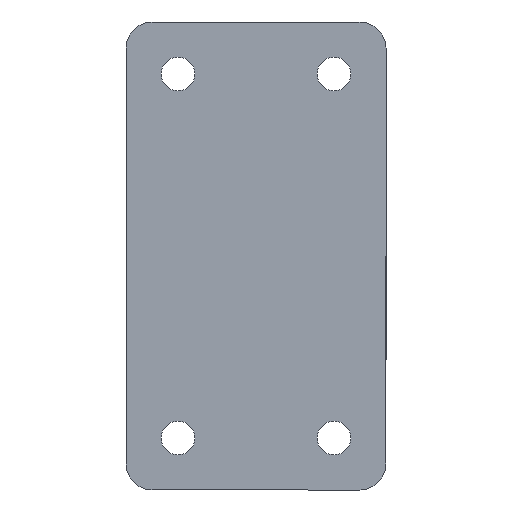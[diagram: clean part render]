
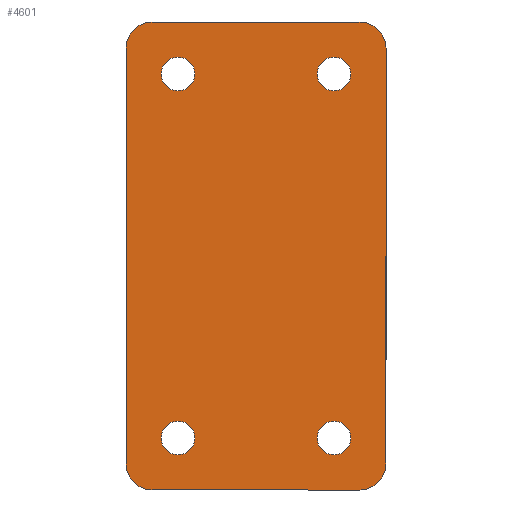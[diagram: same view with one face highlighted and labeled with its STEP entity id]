
A CAD part, front view. The second image highlights one B-rep face of the part: STEP entity #4601.
In plain terms, the highlighted planar face has unit normal (0, -1, 0).
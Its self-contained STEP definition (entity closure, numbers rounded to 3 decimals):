
#17 = CARTESIAN_POINT ( 'NONE',  ( -30., -5., 63.5 ) ) ;
#18 = CARTESIAN_POINT ( 'NONE',  ( 30., -5., 70. ) ) ;
#134 = VERTEX_POINT ( 'NONE', #3408 ) ;
#142 = AXIS2_PLACEMENT_3D ( 'NONE', #834, #4768, #5800 ) ;
#194 = ORIENTED_EDGE ( 'NONE', *, *, #1553, .F. ) ;
#219 = AXIS2_PLACEMENT_3D ( 'NONE', #4308, #5751, #3366 ) ;
#283 = DIRECTION ( 'NONE',  ( 0., 0., 1. ) ) ;
#297 = CIRCLE ( 'NONE', #2203, 10. ) ;
#425 = EDGE_CURVE ( 'NONE', #2573, #935, #2113, .T. ) ;
#459 = ORIENTED_EDGE ( 'NONE', *, *, #4928, .F. ) ;
#484 = DIRECTION ( 'NONE',  ( 0., -1., 0. ) ) ;
#623 = LINE ( 'NONE', #5811, #4686 ) ;
#742 = CARTESIAN_POINT ( 'NONE',  ( 50., -5., -80. ) ) ;
#753 = EDGE_CURVE ( 'NONE', #1617, #2298, #3498, .T. ) ;
#804 = DIRECTION ( 'NONE',  ( 0., 1., 0. ) ) ;
#833 = EDGE_LOOP ( 'NONE', ( #3295, #5921 ) ) ;
#834 = CARTESIAN_POINT ( 'NONE',  ( -30., -5., 70. ) ) ;
#850 = CARTESIAN_POINT ( 'NONE',  ( -40., -5., -90. ) ) ;
#896 = VERTEX_POINT ( 'NONE', #4582 ) ;
#935 = VERTEX_POINT ( 'NONE', #1625 ) ;
#944 = DIRECTION ( 'NONE',  ( 0., 0., -1. ) ) ;
#994 = ORIENTED_EDGE ( 'NONE', *, *, #425, .T. ) ;
#1011 = CIRCLE ( 'NONE', #142, 6.5 ) ;
#1084 = CARTESIAN_POINT ( 'NONE',  ( -30., -5., 70. ) ) ;
#1199 = EDGE_CURVE ( 'NONE', #4530, #6210, #5694, .T. ) ;
#1240 = DIRECTION ( 'NONE',  ( 0., 1., 0. ) ) ;
#1291 = VERTEX_POINT ( 'NONE', #850 ) ;
#1298 = CARTESIAN_POINT ( 'NONE',  ( -30., -5., -70. ) ) ;
#1390 = DIRECTION ( 'NONE',  ( 0., -1., 0. ) ) ;
#1399 = CARTESIAN_POINT ( 'NONE',  ( 40., -5., 90. ) ) ;
#1410 = EDGE_CURVE ( 'NONE', #5709, #3740, #4548, .T. ) ;
#1442 = DIRECTION ( 'NONE',  ( 0., 0., 1. ) ) ;
#1445 = CARTESIAN_POINT ( 'NONE',  ( 30., -5., 63.5 ) ) ;
#1483 = FACE_OUTER_BOUND ( 'NONE', #2545, .T. ) ;
#1511 = DIRECTION ( 'NONE',  ( 0., 0., 1. ) ) ;
#1523 = VERTEX_POINT ( 'NONE', #2396 ) ;
#1553 = EDGE_CURVE ( 'NONE', #896, #6356, #623, .T. ) ;
#1617 = VERTEX_POINT ( 'NONE', #4842 ) ;
#1625 = CARTESIAN_POINT ( 'NONE',  ( -30., -5., -76.5 ) ) ;
#1672 = AXIS2_PLACEMENT_3D ( 'NONE', #4388, #484, #1442 ) ;
#1689 = ORIENTED_EDGE ( 'NONE', *, *, #1199, .T. ) ;
#1746 = EDGE_CURVE ( 'NONE', #134, #6356, #297, .T. ) ;
#1787 = DIRECTION ( 'NONE',  ( -1., 0., 0. ) ) ;
#1790 = CARTESIAN_POINT ( 'NONE',  ( -30., -5., -63.5 ) ) ;
#1831 = CARTESIAN_POINT ( 'NONE',  ( -40., -5., 80. ) ) ;
#1843 = VECTOR ( 'NONE', #6311, 1000. ) ;
#1858 = CARTESIAN_POINT ( 'NONE',  ( -50., -5., 90. ) ) ;
#1905 = ORIENTED_EDGE ( 'NONE', *, *, #4661, .F. ) ;
#1908 = EDGE_CURVE ( 'NONE', #4980, #1523, #5081, .T. ) ;
#1998 = DIRECTION ( 'NONE',  ( 0., 1., 0. ) ) ;
#2113 = CIRCLE ( 'NONE', #4789, 6.5 ) ;
#2164 = FACE_BOUND ( 'NONE', #4539, .T. ) ;
#2196 = CARTESIAN_POINT ( 'NONE',  ( 30., -5., -70. ) ) ;
#2203 = AXIS2_PLACEMENT_3D ( 'NONE', #1831, #4776, #5273 ) ;
#2298 = VERTEX_POINT ( 'NONE', #17 ) ;
#2308 = FACE_BOUND ( 'NONE', #3792, .T. ) ;
#2346 = DIRECTION ( 'NONE',  ( 0., 0., 1. ) ) ;
#2354 = EDGE_CURVE ( 'NONE', #6210, #4530, #3155, .T. ) ;
#2367 = ORIENTED_EDGE ( 'NONE', *, *, #5082, .T. ) ;
#2391 = CARTESIAN_POINT ( 'NONE',  ( -30., -5., -70. ) ) ;
#2396 = CARTESIAN_POINT ( 'NONE',  ( 30., -5., 76.5 ) ) ;
#2414 = DIRECTION ( 'NONE',  ( 0., 0., 1. ) ) ;
#2457 = CARTESIAN_POINT ( 'NONE',  ( 50., -5., -90. ) ) ;
#2545 = EDGE_LOOP ( 'NONE', ( #194, #2367, #4165, #6367, #459, #6136, #1905, #4001 ) ) ;
#2573 = VERTEX_POINT ( 'NONE', #1790 ) ;
#2652 = EDGE_CURVE ( 'NONE', #2298, #1617, #1011, .T. ) ;
#2692 = DIRECTION ( 'NONE',  ( 0., 0., 1. ) ) ;
#2833 = DIRECTION ( 'NONE',  ( 0., 0., 1. ) ) ;
#2845 = CIRCLE ( 'NONE', #1672, 10. ) ;
#2850 = LINE ( 'NONE', #2457, #5940 ) ;
#2893 = DIRECTION ( 'NONE',  ( 0., -1., 0. ) ) ;
#2912 = EDGE_CURVE ( 'NONE', #4493, #3471, #2845, .T. ) ;
#2986 = AXIS2_PLACEMENT_3D ( 'NONE', #3756, #804, #283 ) ;
#3040 = DIRECTION ( 'NONE',  ( 0., 1., 0. ) ) ;
#3106 = CIRCLE ( 'NONE', #4951, 6.5 ) ;
#3153 = EDGE_CURVE ( 'NONE', #1523, #4980, #4477, .T. ) ;
#3155 = CIRCLE ( 'NONE', #5549, 6.5 ) ;
#3164 = FACE_BOUND ( 'NONE', #833, .T. ) ;
#3240 = FACE_BOUND ( 'NONE', #3797, .T. ) ;
#3245 = ORIENTED_EDGE ( 'NONE', *, *, #753, .T. ) ;
#3281 = CARTESIAN_POINT ( 'NONE',  ( 0., -5., 0. ) ) ;
#3295 = ORIENTED_EDGE ( 'NONE', *, *, #3153, .T. ) ;
#3366 = DIRECTION ( 'NONE',  ( 0., 0., 1. ) ) ;
#3408 = CARTESIAN_POINT ( 'NONE',  ( -40., -5., 90. ) ) ;
#3419 = AXIS2_PLACEMENT_3D ( 'NONE', #4881, #1390, #3834 ) ;
#3456 = DIRECTION ( 'NONE',  ( 0., 0., 1. ) ) ;
#3471 = VERTEX_POINT ( 'NONE', #742 ) ;
#3498 = CIRCLE ( 'NONE', #6278, 6.5 ) ;
#3740 = VERTEX_POINT ( 'NONE', #1399 ) ;
#3756 = CARTESIAN_POINT ( 'NONE',  ( 30., -5., 70. ) ) ;
#3792 = EDGE_LOOP ( 'NONE', ( #994, #4213 ) ) ;
#3797 = EDGE_LOOP ( 'NONE', ( #3245, #4816 ) ) ;
#3834 = DIRECTION ( 'NONE',  ( 0., 0., 1. ) ) ;
#3955 = CARTESIAN_POINT ( 'NONE',  ( 30., -5., -63.5 ) ) ;
#4001 = ORIENTED_EDGE ( 'NONE', *, *, #1746, .T. ) ;
#4087 = LINE ( 'NONE', #1858, #1843 ) ;
#4096 = AXIS2_PLACEMENT_3D ( 'NONE', #18, #1998, #1511 ) ;
#4165 = ORIENTED_EDGE ( 'NONE', *, *, #6104, .F. ) ;
#4213 = ORIENTED_EDGE ( 'NONE', *, *, #4516, .T. ) ;
#4227 = CARTESIAN_POINT ( 'NONE',  ( -50., -5., -90. ) ) ;
#4245 = PLANE ( 'NONE',  #4720 ) ;
#4308 = CARTESIAN_POINT ( 'NONE',  ( 30., -5., -70. ) ) ;
#4388 = CARTESIAN_POINT ( 'NONE',  ( 40., -5., -80. ) ) ;
#4477 = CIRCLE ( 'NONE', #2986, 6.5 ) ;
#4493 = VERTEX_POINT ( 'NONE', #4804 ) ;
#4516 = EDGE_CURVE ( 'NONE', #935, #2573, #3106, .T. ) ;
#4530 = VERTEX_POINT ( 'NONE', #5302 ) ;
#4539 = EDGE_LOOP ( 'NONE', ( #5666, #1689 ) ) ;
#4548 = CIRCLE ( 'NONE', #4559, 10. ) ;
#4559 = AXIS2_PLACEMENT_3D ( 'NONE', #5629, #2893, #2414 ) ;
#4582 = CARTESIAN_POINT ( 'NONE',  ( -50., -5., -80. ) ) ;
#4601 = ADVANCED_FACE ( 'NONE', ( #3240, #3164, #2164, #2308, #1483 ), #4245, .F. ) ;
#4661 = EDGE_CURVE ( 'NONE', #134, #3740, #4087, .T. ) ;
#4686 = VECTOR ( 'NONE', #5746, 1000. ) ;
#4720 = AXIS2_PLACEMENT_3D ( 'NONE', #3281, #4740, #6337 ) ;
#4740 = DIRECTION ( 'NONE',  ( 0., 1., 0. ) ) ;
#4768 = DIRECTION ( 'NONE',  ( 0., 1., 0. ) ) ;
#4776 = DIRECTION ( 'NONE',  ( 0., -1., 0. ) ) ;
#4789 = AXIS2_PLACEMENT_3D ( 'NONE', #2391, #5831, #2346 ) ;
#4804 = CARTESIAN_POINT ( 'NONE',  ( 40., -5., -90. ) ) ;
#4816 = ORIENTED_EDGE ( 'NONE', *, *, #2652, .T. ) ;
#4842 = CARTESIAN_POINT ( 'NONE',  ( -30., -5., 76.5 ) ) ;
#4881 = CARTESIAN_POINT ( 'NONE',  ( -40., -5., -80. ) ) ;
#4928 = EDGE_CURVE ( 'NONE', #5709, #3471, #2850, .T. ) ;
#4951 = AXIS2_PLACEMENT_3D ( 'NONE', #1298, #6243, #2833 ) ;
#4980 = VERTEX_POINT ( 'NONE', #1445 ) ;
#5081 = CIRCLE ( 'NONE', #4096, 6.5 ) ;
#5082 = EDGE_CURVE ( 'NONE', #896, #1291, #6225, .T. ) ;
#5273 = DIRECTION ( 'NONE',  ( 0., 0., 1. ) ) ;
#5302 = CARTESIAN_POINT ( 'NONE',  ( 30., -5., -76.5 ) ) ;
#5409 = VECTOR ( 'NONE', #1787, 1000. ) ;
#5549 = AXIS2_PLACEMENT_3D ( 'NONE', #2196, #1240, #2692 ) ;
#5626 = CARTESIAN_POINT ( 'NONE',  ( -50., -5., 80. ) ) ;
#5629 = CARTESIAN_POINT ( 'NONE',  ( 40., -5., 80. ) ) ;
#5666 = ORIENTED_EDGE ( 'NONE', *, *, #2354, .T. ) ;
#5691 = CARTESIAN_POINT ( 'NONE',  ( 50., -5., 80. ) ) ;
#5694 = CIRCLE ( 'NONE', #219, 6.5 ) ;
#5709 = VERTEX_POINT ( 'NONE', #5691 ) ;
#5746 = DIRECTION ( 'NONE',  ( 0., 0., 1. ) ) ;
#5751 = DIRECTION ( 'NONE',  ( 0., 1., 0. ) ) ;
#5800 = DIRECTION ( 'NONE',  ( 0., 0., 1. ) ) ;
#5811 = CARTESIAN_POINT ( 'NONE',  ( -50., -5., -90. ) ) ;
#5831 = DIRECTION ( 'NONE',  ( 0., 1., 0. ) ) ;
#5921 = ORIENTED_EDGE ( 'NONE', *, *, #1908, .T. ) ;
#5940 = VECTOR ( 'NONE', #944, 1000. ) ;
#6104 = EDGE_CURVE ( 'NONE', #4493, #1291, #6313, .T. ) ;
#6136 = ORIENTED_EDGE ( 'NONE', *, *, #1410, .T. ) ;
#6210 = VERTEX_POINT ( 'NONE', #3955 ) ;
#6225 = CIRCLE ( 'NONE', #3419, 10. ) ;
#6243 = DIRECTION ( 'NONE',  ( 0., 1., 0. ) ) ;
#6278 = AXIS2_PLACEMENT_3D ( 'NONE', #1084, #3040, #3456 ) ;
#6311 = DIRECTION ( 'NONE',  ( 1., 0., 0. ) ) ;
#6313 = LINE ( 'NONE', #4227, #5409 ) ;
#6337 = DIRECTION ( 'NONE',  ( 0., 0., 1. ) ) ;
#6356 = VERTEX_POINT ( 'NONE', #5626 ) ;
#6367 = ORIENTED_EDGE ( 'NONE', *, *, #2912, .T. ) ;
